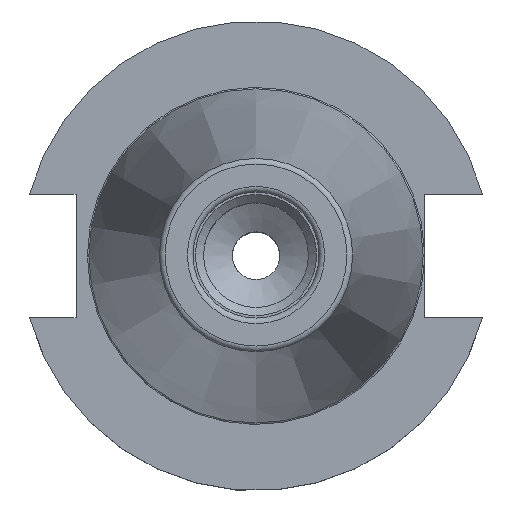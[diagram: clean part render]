
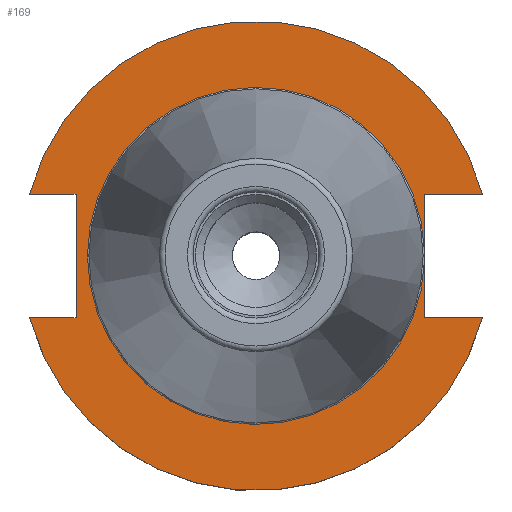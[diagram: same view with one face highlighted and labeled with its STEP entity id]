
A CAD part, top view. The second image highlights one B-rep face of the part: STEP entity #169.
In plain terms, the highlighted planar face has unit normal (0, 0, 1).
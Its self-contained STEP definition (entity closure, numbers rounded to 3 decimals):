
#169 = ADVANCED_FACE( '', ( #379 ), #380, .F. );
#379 = FACE_OUTER_BOUND( '', #620, .T. );
#380 = PLANE( '', #621 );
#620 = EDGE_LOOP( '', ( #1039, #1040, #1041, #1042, #1043, #1044, #1045, #1046, #1047, #1048 ) );
#621 = AXIS2_PLACEMENT_3D( '', #1049, #1050, #1051 );
#1039 = ORIENTED_EDGE( '', *, *, #1316, .F. );
#1040 = ORIENTED_EDGE( '', *, *, #1423, .F. );
#1041 = ORIENTED_EDGE( '', *, *, #1391, .T. );
#1042 = ORIENTED_EDGE( '', *, *, #1380, .T. );
#1043 = ORIENTED_EDGE( '', *, *, #1413, .F. );
#1044 = ORIENTED_EDGE( '', *, *, #1424, .F. );
#1045 = ORIENTED_EDGE( '', *, *, #1425, .T. );
#1046 = ORIENTED_EDGE( '', *, *, #1426, .F. );
#1047 = ORIENTED_EDGE( '', *, *, #1427, .T. );
#1048 = ORIENTED_EDGE( '', *, *, #1428, .F. );
#1049 = CARTESIAN_POINT( '', ( 0., 35.388, -3.175 ) );
#1050 = DIRECTION( '', ( 0., 0., -1. ) );
#1051 = DIRECTION( '', ( 0., 1., 0. ) );
#1316 = EDGE_CURVE( '', #1559, #1561, #1562, .T. );
#1380 = EDGE_CURVE( '', #1662, #1659, #1663, .T. );
#1391 = EDGE_CURVE( '', #1678, #1662, #1679, .T. );
#1413 = EDGE_CURVE( '', #1710, #1659, #1712, .T. );
#1423 = EDGE_CURVE( '', #1678, #1559, #1724, .T. );
#1424 = EDGE_CURVE( '', #1725, #1710, #1726, .T. );
#1425 = EDGE_CURVE( '', #1725, #1727, #1728, .T. );
#1426 = EDGE_CURVE( '', #1729, #1727, #1730, .T. );
#1427 = EDGE_CURVE( '', #1729, #1731, #1732, .T. );
#1428 = EDGE_CURVE( '', #1561, #1731, #1733, .T. );
#1559 = VERTEX_POINT( '', #2064 );
#1561 = VERTEX_POINT( '', #2067 );
#1562 = LINE( '', #2068, #2069 );
#1659 = VERTEX_POINT( '', #2231 );
#1662 = VERTEX_POINT( '', #2235 );
#1663 = LINE( '', #2236, #2237 );
#1678 = VERTEX_POINT( '', #2257 );
#1679 = LINE( '', #2258, #2259 );
#1710 = VERTEX_POINT( '', #2392 );
#1712 = LINE( '', #2395, #2396 );
#1724 = CIRCLE( '', #2410, 49.213 );
#1725 = VERTEX_POINT( '', #2411 );
#1726 = CIRCLE( '', #2412, 49.213 );
#1727 = VERTEX_POINT( '', #2413 );
#1728 = LINE( '', #2414, #2415 );
#1729 = VERTEX_POINT( '', #2416 );
#1730 = LINE( '', #2417, #2418 );
#1731 = VERTEX_POINT( '', #2419 );
#1732 = CIRCLE( '', #2420, 35.323 );
#1733 = LINE( '', #2421, #2422 );
#2064 = CARTESIAN_POINT( '', ( 47.477, 12.954, -3.175 ) );
#2067 = CARTESIAN_POINT( '', ( 35.306, 12.954, -3.175 ) );
#2068 = CARTESIAN_POINT( '', ( 85.306, 12.954, -3.175 ) );
#2069 = VECTOR( '', #2572, 1000. );
#2231 = CARTESIAN_POINT( '', ( -37.719, -12.954, -3.175 ) );
#2235 = CARTESIAN_POINT( '', ( -37.719, 12.954, -3.175 ) );
#2236 = CARTESIAN_POINT( '', ( -37.719, 12.954, -3.175 ) );
#2237 = VECTOR( '', #2665, 1000. );
#2257 = CARTESIAN_POINT( '', ( -47.477, 12.954, -3.175 ) );
#2258 = CARTESIAN_POINT( '', ( -87.719, 12.954, -3.175 ) );
#2259 = VECTOR( '', #2677, 1000. );
#2392 = CARTESIAN_POINT( '', ( -47.477, -12.954, -3.175 ) );
#2395 = CARTESIAN_POINT( '', ( -87.719, -12.954, -3.175 ) );
#2396 = VECTOR( '', #2698, 1000. );
#2410 = AXIS2_PLACEMENT_3D( '', #2707, #2708, #2709 );
#2411 = CARTESIAN_POINT( '', ( 47.477, -12.954, -3.175 ) );
#2412 = AXIS2_PLACEMENT_3D( '', #2710, #2711, #2712 );
#2413 = CARTESIAN_POINT( '', ( 35.306, -12.954, -3.175 ) );
#2414 = CARTESIAN_POINT( '', ( 85.306, -12.954, -3.175 ) );
#2415 = VECTOR( '', #2713, 1000. );
#2416 = CARTESIAN_POINT( '', ( 35.306, -1.11, -3.175 ) );
#2417 = CARTESIAN_POINT( '', ( 35.306, 12.954, -3.175 ) );
#2418 = VECTOR( '', #2714, 1000. );
#2419 = CARTESIAN_POINT( '', ( 35.306, 1.11, -3.175 ) );
#2420 = AXIS2_PLACEMENT_3D( '', #2715, #2716, #2717 );
#2421 = CARTESIAN_POINT( '', ( 35.306, 12.954, -3.175 ) );
#2422 = VECTOR( '', #2718, 1000. );
#2572 = DIRECTION( '', ( -1., 0., 0. ) );
#2665 = DIRECTION( '', ( 0., -1., 0. ) );
#2677 = DIRECTION( '', ( 1., 0., 0. ) );
#2698 = DIRECTION( '', ( 1., 0., 0. ) );
#2707 = CARTESIAN_POINT( '', ( 0., 0., -3.175 ) );
#2708 = DIRECTION( '', ( 0., 0., -1. ) );
#2709 = DIRECTION( '', ( 0., 1., 0. ) );
#2710 = CARTESIAN_POINT( '', ( 0., 0., -3.175 ) );
#2711 = DIRECTION( '', ( 0., 0., -1. ) );
#2712 = DIRECTION( '', ( 0., 1., 0. ) );
#2713 = DIRECTION( '', ( -1., 0., 0. ) );
#2714 = DIRECTION( '', ( 0., -1., 0. ) );
#2715 = CARTESIAN_POINT( '', ( 0., 0., -3.175 ) );
#2716 = DIRECTION( '', ( 0., 0., -1. ) );
#2717 = DIRECTION( '', ( -1., 0., 0. ) );
#2718 = DIRECTION( '', ( 0., -1., 0. ) );
